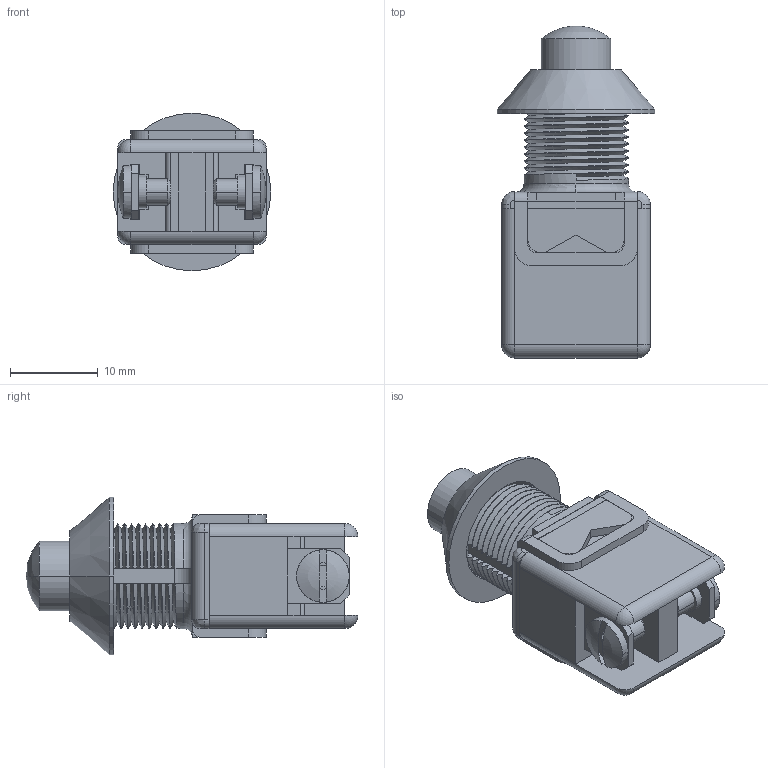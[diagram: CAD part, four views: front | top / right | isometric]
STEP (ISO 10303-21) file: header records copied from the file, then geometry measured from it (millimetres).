
FILE_DESCRIPTION((''),'2;1');
FILE_NAME('1223MRA_SW0001','2010-10-11T',('jlgachon'),(''),'PRO/ENGINEER BY PARAMETRIC TECHNOLOGY CORPORATION, 2009440','PRO/ENGINEER BY PARAMETRIC TECHNOLOGY CORPORATION, 2009440','');
FILE_SCHEMA(('CONFIG_CONTROL_DESIGN'));
Length unit declared in the file: millimetre
Products named in the file (1): 1223MRA_SW0001
Bounding box: 18 x 37.9 x 18 mm (x, y, z)
Surface area: 3981.2 mm2 (no closed solid volume)
Topology: 0 solids, 11 shells, 189 faces, 649 edges, 460 vertices
Faces by surface type: plane 88, cylinder 51, bspline 30, sphere 10, cone 8, torus 2
Entity records: 21862 total; most frequent: CARTESIAN_POINT 16514, ORIENTED_EDGE 1051, DIRECTION 1012, EDGE_CURVE 647, VERTEX_POINT 460, VECTOR 398, LINE 398, AXIS2_PLACEMENT_3D 307
